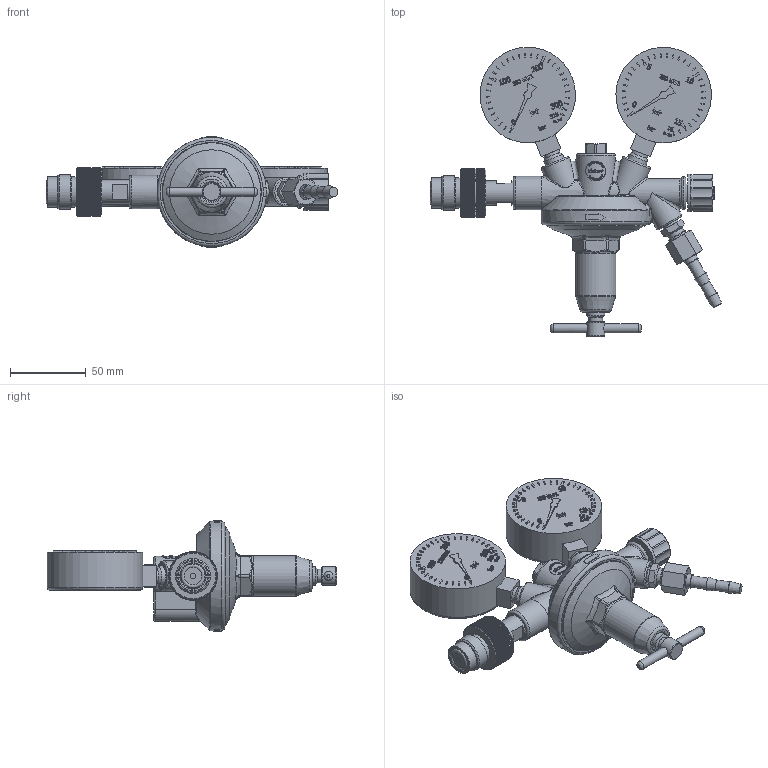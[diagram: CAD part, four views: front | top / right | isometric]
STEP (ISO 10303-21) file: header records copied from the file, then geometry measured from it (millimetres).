
FILE_DESCRIPTION(/* description */ (''),/* implementation_level */ '2;1');
FILE_NAME(/* name */ 'B-RH201-00C.step',/* time_stamp */ '2024-04-02T09:18:37+02:00',/* author */ (''),/* organization */ (''),/* preprocessor_version */ 'ST-DEVELOPER v20',/* originating_system */ 'Autodesk Translation Framework v12.20.1.177',/* authorisation */ '');
FILE_SCHEMA (('AUTOMOTIVE_DESIGN { 1 0 10303 214 3 1 1 }'));
Length unit declared in the file: millimetre
Products named in the file (1): (Nicht gespeichert)
Bounding box: 192.17 x 190.91 x 72.98 mm (x, y, z)
Volume: 374799.8 mm3; surface area: 62165.7 mm2
Topology: 1 solids, 1 shells, 2758 faces, 7414 edges, 4885 vertices
Faces by surface type: plane 1302, bspline 1085, cylinder 296, cone 47, torus 26, sphere 2
Full cylindrical faces by diameter (mm): 0.346 x1, 0.446 x1, 6 x2, 7 x1, 7.5 x1, 8.4 x1, 9 x2, 9.5 x1, 11 x4, 11.445 x1, 12 x2, 13 x2, 13.16 x3, 15.98 x1, 16 x1, 16.5 x1, 18.917 x1, 19 x1, 19.9 x1, 20 x3, 22 x1, 22.91 x1, 25 x1, 26.501 x1, 63 x2, 65 x1
Entity records: 109155 total; most frequent: CARTESIAN_POINT 42264, ORIENTED_EDGE 14794, DIRECTION 10740, EDGE_CURVE 7397, VERTEX_POINT 4885, LINE 3880, VECTOR 3880, AXIS2_PLACEMENT_3D 3430
